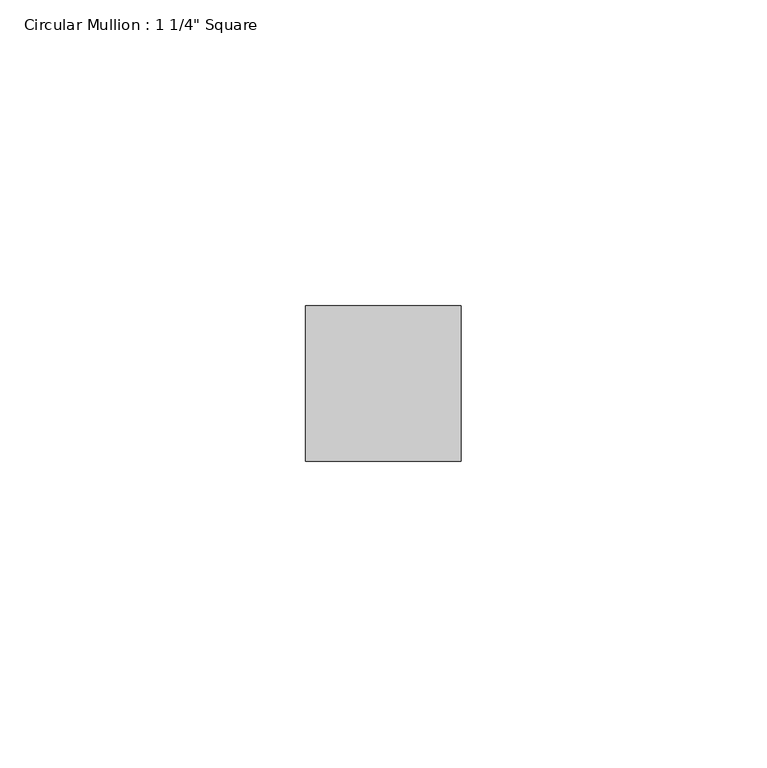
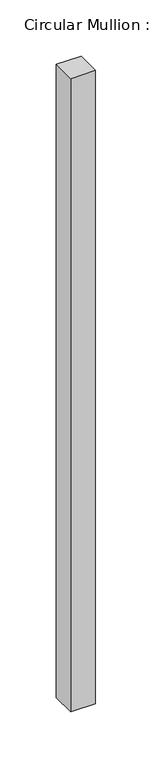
"""IFC4 building model written with IfcOpenShell, lengths in millimetres: member geometry."""

from ifc_helpers import new_model, si_unit, frame, origin, place, context, project, spatial, polyline, outline, extrude, source, transform, mapped, element, save


def member_bade2307(model_context):
    return source(origin(), model_context, "Body", "SweptSolid", [
        extrude(outline(polyline([(0.0, 12.7), (0.0, -12.7), (-25.4, -12.7), (-25.4, 12.7), (0.0, 12.7)])), frame((0.0, 0.0, -686.8292721), z_axis=(0.0, 0.0, 1.0), x_axis=(1.0, 0.0, 0.0)), (0.0, 0.0, 1.0), 686.8292721),
    ])


if __name__ == "__main__":
    model = new_model("IFC4")
    model_context = context("Model", 3, world=origin())
    ifc_project = project(units=[si_unit("LENGTHUNIT", "METRE", prefix="MILLI")], contexts=[model_context])
    site = spatial("IfcSite", under=ifc_project)
    building = spatial("IfcBuilding", under=site)
    placement = place(None, origin())
    member_shape = member_bade2307(model_context)
    element("IfcMember", 1, ObjectType="Circular Mullion : 1 1/4\" Square", at=placement, inside=building, context=model_context, shape_type="MappedRepresentation", body=[
        mapped(member_shape, transform((0.0, 0.0, 0.0), x_axis=(1.0, 0.0, 0.0), y_axis=(0.0, 1.0, 0.0), z_axis=(0.0, 0.0, 1.0))),
    ])
    save(model, "model.ifc")
